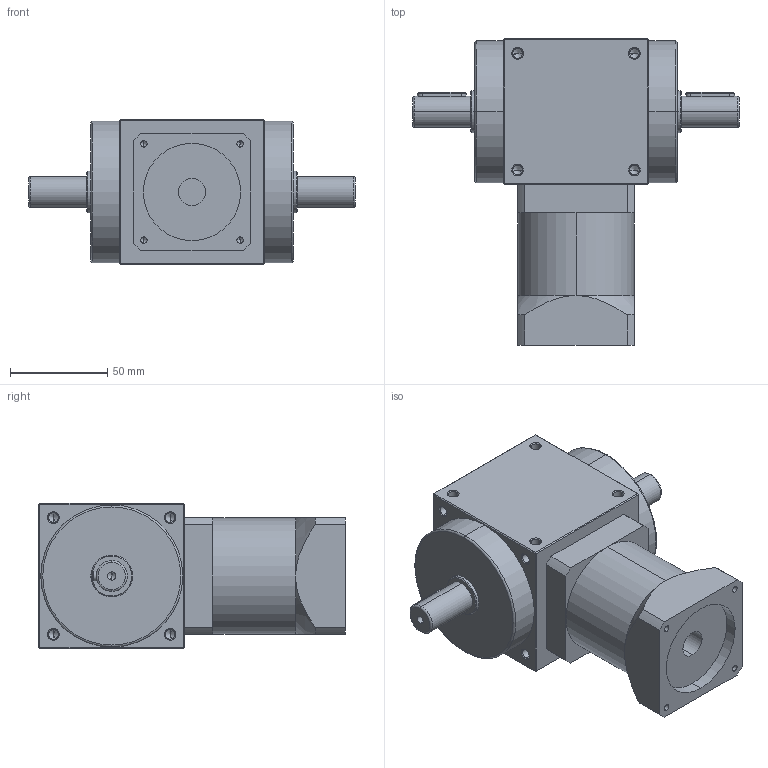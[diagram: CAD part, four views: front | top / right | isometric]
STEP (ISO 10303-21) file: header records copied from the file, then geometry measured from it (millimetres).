
FILE_DESCRIPTION (( 'STEP AP214' ), '1' );
FILE_NAME ('AT075-FL-L1-400W.STEP', '2019-08-21T01:19:45', ( 'User' ), ( 'Far123' ), 'SwSTEP 2.0', 'SolidWorks 2015', '' );
FILE_SCHEMA (( 'AUTOMOTIVE_DESIGN' ));
Length unit declared in the file: millimetre
Products named in the file (1): AT075-FL-L1-400W
Bounding box: 168 x 157.5 x 75 mm (x, y, z)
Volume: 795902.6 mm3; surface area: 67812 mm2
Topology: 1 solids, 1 shells, 291 faces, 718 edges, 390 vertices
Faces by surface type: cylinder 122, cone 104, plane 57, torus 8
Entity records: 9330 total; most frequent: CARTESIAN_POINT 1912, DIRECTION 1354, ORIENTED_EDGE 1332, EDGE_CURVE 666, AXIS2_PLACEMENT_3D 520, VERTEX_POINT 390, EDGE_LOOP 328, VECTOR 314
